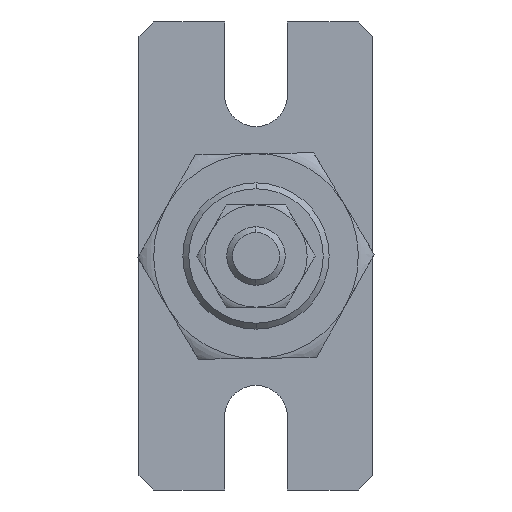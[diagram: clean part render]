
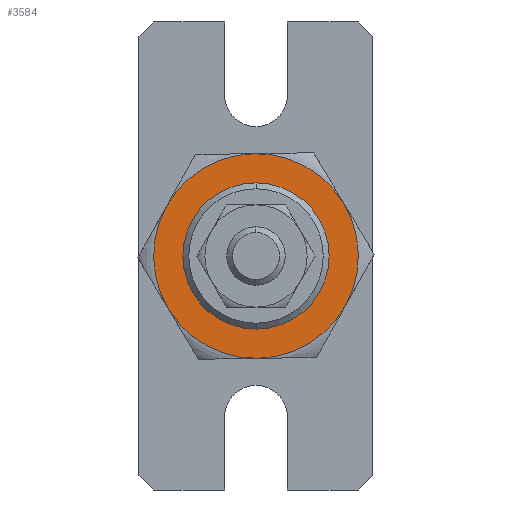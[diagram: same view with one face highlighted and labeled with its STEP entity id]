
A CAD part, left-side view. The second image highlights one B-rep face of the part: STEP entity #3584.
In plain terms, the highlighted planar face has unit normal (-1, 0, 0).
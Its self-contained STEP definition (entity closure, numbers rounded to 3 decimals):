
#76 = CARTESIAN_POINT ( 'NONE',  ( -1.5, 0., -4.5 ) ) ;
#186 = ORIENTED_EDGE ( 'NONE', *, *, #1883, .F. ) ;
#195 = PLANE ( 'NONE',  #2631 ) ;
#264 = CARTESIAN_POINT ( 'NONE',  ( -1.5, 0., 7. ) ) ;
#309 = DIRECTION ( 'NONE',  ( 0., 0., -1. ) ) ;
#422 = VERTEX_POINT ( 'NONE', #867 ) ;
#462 = ORIENTED_EDGE ( 'NONE', *, *, #3394, .T. ) ;
#667 = CARTESIAN_POINT ( 'NONE',  ( -1.5, 0., 0. ) ) ;
#685 = EDGE_CURVE ( 'NONE', #422, #3125, #1646, .T. ) ;
#702 = CARTESIAN_POINT ( 'NONE',  ( -1.5, 0., 0. ) ) ;
#737 = CARTESIAN_POINT ( 'NONE',  ( -1.5, -6.062, -3.5 ) ) ;
#778 = FACE_BOUND ( 'NONE', #2793, .T. ) ;
#867 = CARTESIAN_POINT ( 'NONE',  ( -1.5, 0., 4.5 ) ) ;
#870 = CARTESIAN_POINT ( 'NONE',  ( -1.5, 0., 0. ) ) ;
#879 = AXIS2_PLACEMENT_3D ( 'NONE', #2772, #1395, #3389 ) ;
#974 = VERTEX_POINT ( 'NONE', #264 ) ;
#975 = AXIS2_PLACEMENT_3D ( 'NONE', #2549, #1996, #2297 ) ;
#1067 = CARTESIAN_POINT ( 'NONE',  ( -1.5, -6.062, 3.5 ) ) ;
#1090 = ORIENTED_EDGE ( 'NONE', *, *, #685, .T. ) ;
#1093 = CARTESIAN_POINT ( 'NONE',  ( -1.5, 0., 0. ) ) ;
#1153 = DIRECTION ( 'NONE',  ( 1., 0., 0. ) ) ;
#1181 = AXIS2_PLACEMENT_3D ( 'NONE', #702, #1986, #2614 ) ;
#1200 = VERTEX_POINT ( 'NONE', #2035 ) ;
#1212 = DIRECTION ( 'NONE',  ( 1., 0., 0. ) ) ;
#1243 = CIRCLE ( 'NONE', #1181, 7. ) ;
#1343 = DIRECTION ( 'NONE',  ( 1., 0., 0. ) ) ;
#1359 = ORIENTED_EDGE ( 'NONE', *, *, #2028, .F. ) ;
#1393 = DIRECTION ( 'NONE',  ( 0., 0., -1. ) ) ;
#1395 = DIRECTION ( 'NONE',  ( 1., 0., 0. ) ) ;
#1431 = FACE_OUTER_BOUND ( 'NONE', #2616, .T. ) ;
#1476 = ORIENTED_EDGE ( 'NONE', *, *, #3344, .F. ) ;
#1523 = CARTESIAN_POINT ( 'NONE',  ( -1.5, 6.062, 3.5 ) ) ;
#1548 = AXIS2_PLACEMENT_3D ( 'NONE', #667, #1153, #2707 ) ;
#1552 = CIRCLE ( 'NONE', #2032, 7. ) ;
#1628 = CARTESIAN_POINT ( 'NONE',  ( -1.5, 0., 0. ) ) ;
#1646 = CIRCLE ( 'NONE', #3824, 4.5 ) ;
#1674 = CIRCLE ( 'NONE', #879, 7. ) ;
#1677 = AXIS2_PLACEMENT_3D ( 'NONE', #1093, #1717, #1393 ) ;
#1717 = DIRECTION ( 'NONE',  ( 1., 0., 0. ) ) ;
#1841 = AXIS2_PLACEMENT_3D ( 'NONE', #2395, #1212, #3386 ) ;
#1883 = EDGE_CURVE ( 'NONE', #3021, #3387, #3028, .T. ) ;
#1929 = DIRECTION ( 'NONE',  ( 0., 0., -1. ) ) ;
#1939 = EDGE_CURVE ( 'NONE', #1200, #3773, #1674, .T. ) ;
#1986 = DIRECTION ( 'NONE',  ( -1., 0., 0. ) ) ;
#1996 = DIRECTION ( 'NONE',  ( 1., 0., 0. ) ) ;
#2028 = EDGE_CURVE ( 'NONE', #3387, #1200, #1552, .T. ) ;
#2032 = AXIS2_PLACEMENT_3D ( 'NONE', #870, #1343, #309 ) ;
#2035 = CARTESIAN_POINT ( 'NONE',  ( -1.5, 6.062, -3.5 ) ) ;
#2218 = EDGE_CURVE ( 'NONE', #3409, #3021, #2506, .T. ) ;
#2285 = ORIENTED_EDGE ( 'NONE', *, *, #3370, .T. ) ;
#2297 = DIRECTION ( 'NONE',  ( 0., 0., -1. ) ) ;
#2395 = CARTESIAN_POINT ( 'NONE',  ( -1.5, 0., 0. ) ) ;
#2506 = CIRCLE ( 'NONE', #975, 7. ) ;
#2549 = CARTESIAN_POINT ( 'NONE',  ( -1.5, 0., 0. ) ) ;
#2583 = CARTESIAN_POINT ( 'NONE',  ( -1.5, 0., -7. ) ) ;
#2614 = DIRECTION ( 'NONE',  ( 0., 0., 1. ) ) ;
#2616 = EDGE_LOOP ( 'NONE', ( #1359, #186, #3784, #1476, #462, #3117 ) ) ;
#2631 = AXIS2_PLACEMENT_3D ( 'NONE', #3541, #3791, #3093 ) ;
#2651 = CIRCLE ( 'NONE', #1677, 4.5 ) ;
#2707 = DIRECTION ( 'NONE',  ( 0., 0., -1. ) ) ;
#2772 = CARTESIAN_POINT ( 'NONE',  ( -1.5, 0., 0. ) ) ;
#2793 = EDGE_LOOP ( 'NONE', ( #2285, #1090 ) ) ;
#3021 = VERTEX_POINT ( 'NONE', #737 ) ;
#3028 = CIRCLE ( 'NONE', #1548, 7. ) ;
#3093 = DIRECTION ( 'NONE',  ( 0., 0., -1. ) ) ;
#3117 = ORIENTED_EDGE ( 'NONE', *, *, #1939, .F. ) ;
#3125 = VERTEX_POINT ( 'NONE', #76 ) ;
#3216 = CIRCLE ( 'NONE', #1841, 7. ) ;
#3344 = EDGE_CURVE ( 'NONE', #974, #3409, #3216, .T. ) ;
#3370 = EDGE_CURVE ( 'NONE', #3125, #422, #2651, .T. ) ;
#3386 = DIRECTION ( 'NONE',  ( 0., 0., -1. ) ) ;
#3387 = VERTEX_POINT ( 'NONE', #2583 ) ;
#3389 = DIRECTION ( 'NONE',  ( 0., 0., -1. ) ) ;
#3394 = EDGE_CURVE ( 'NONE', #974, #3773, #1243, .T. ) ;
#3409 = VERTEX_POINT ( 'NONE', #1067 ) ;
#3541 = CARTESIAN_POINT ( 'NONE',  ( -1.5, 0., 0. ) ) ;
#3584 = ADVANCED_FACE ( 'NONE', ( #778, #1431 ), #195, .F. ) ;
#3603 = DIRECTION ( 'NONE',  ( 1., 0., 0. ) ) ;
#3773 = VERTEX_POINT ( 'NONE', #1523 ) ;
#3784 = ORIENTED_EDGE ( 'NONE', *, *, #2218, .F. ) ;
#3791 = DIRECTION ( 'NONE',  ( 1., 0., 0. ) ) ;
#3824 = AXIS2_PLACEMENT_3D ( 'NONE', #1628, #3603, #1929 ) ;
